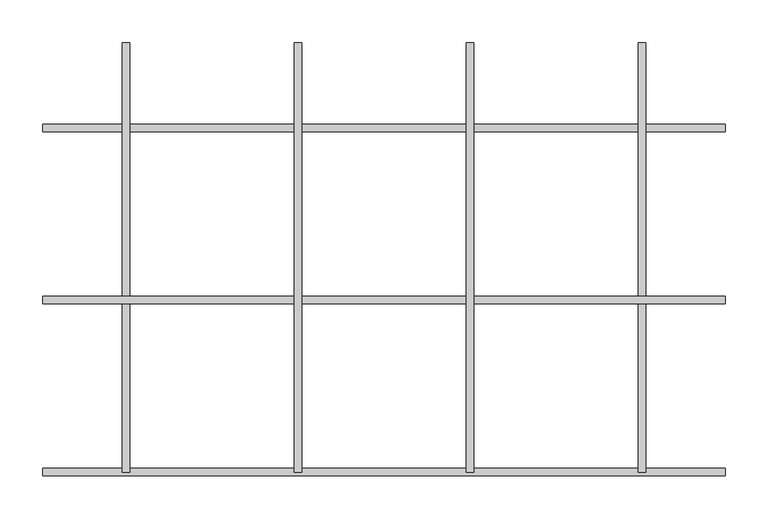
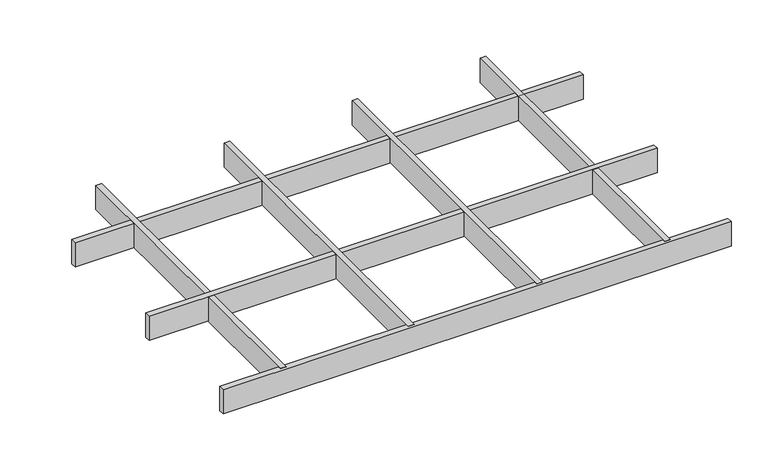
"""IFC4 building model written with IfcOpenShell, lengths in millimetres: proxy geometry, durlum_GEO_panel : durlum_GEO_9_corner_cut."""

from ifc_helpers import new_model, si_unit, origin, origin_with_axes, place, context, project, spatial, polyline, outline, extrude, source, transform, mapped, element, save


def generic_models_3ca765b0(model_context):
    return source(origin(), model_context, "Body", "SweptSolid", [
        extrude(outline(polyline([(95.5, 249.5), (104.5, 249.5), (104.5, -249.5), (95.5, -249.5), (95.5, 249.5)])), origin_with_axes(), (0.0, 0.0, 1.0), 40.0),
        extrude(outline(polyline([(-104.5, 249.5), (-95.5, 249.5), (-95.5, -249.5), (-104.5, -249.5), (-104.5, 249.5)])), origin_with_axes(), (0.0, 0.0, 1.0), 40.0),
        extrude(outline(polyline([(396.5628516, -45.0), (396.5628516, -54.0), (-396.5628516, -54.0), (-396.5628516, -45.0), (396.5628516, -45.0)])), origin_with_axes(), (0.0, 0.0, 1.0), 40.0),
        extrude(outline(polyline([(295.5, 249.5), (304.5, 249.5), (304.5, -249.5), (295.5, -249.5), (295.5, 249.5)])), origin_with_axes(), (0.0, 0.0, 1.0), 40.0),
        extrude(outline(polyline([(-304.5, 249.5), (-295.5, 249.5), (-295.5, -249.5), (-304.5, -249.5), (-304.5, 249.5)])), origin_with_axes(), (0.0, 0.0, 1.0), 40.0),
        extrude(outline(polyline([(396.5628516, -245.0), (396.5628516, -254.0), (-396.5628516, -254.0), (-396.5628516, -245.0), (396.5628516, -245.0)])), origin_with_axes(), (0.0, 0.0, 1.0), 40.0),
        extrude(outline(polyline([(396.5628516, 155.0), (396.5628516, 146.0), (-396.5628516, 146.0), (-396.5628516, 155.0), (396.5628516, 155.0)])), origin_with_axes(), (0.0, 0.0, 1.0), 40.0),
    ])


if __name__ == "__main__":
    model = new_model("IFC4")
    model_context = context("Model", 3, world=origin())
    ifc_project = project(units=[si_unit("LENGTHUNIT", "METRE", prefix="MILLI")], contexts=[model_context])
    site = spatial("IfcSite", under=ifc_project)
    building = spatial("IfcBuilding", under=site)
    placement = place(None, origin())
    generic_models_shape = generic_models_3ca765b0(model_context)
    element("IfcBuildingElementProxy", 1, Name="durlum_GEO_panel : durlum_GEO_9_corner_cut", ObjectType="durlum_GEO_panel : durlum_GEO_9_corner_cut", at=placement, inside=building, context=model_context, shape_type="MappedRepresentation", body=[
        mapped(generic_models_shape, transform((0.0, 0.0, 0.0), x_axis=(1.0, 0.0, 0.0), y_axis=(0.0, 1.0, 0.0), z_axis=(0.0, 0.0, 1.0))),
    ])
    save(model, "model.ifc")
